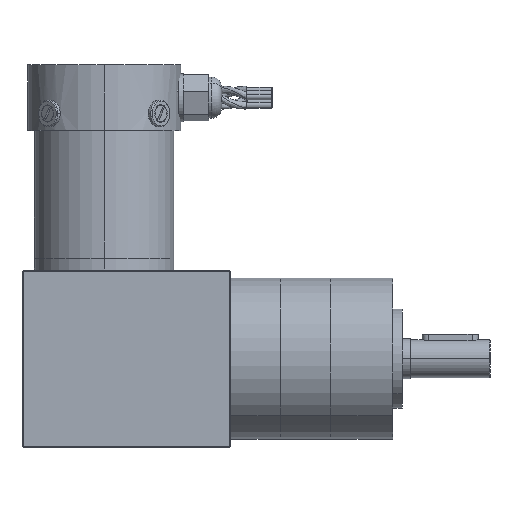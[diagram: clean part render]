
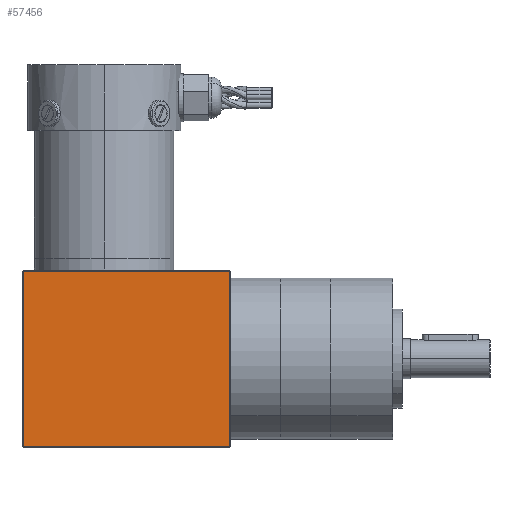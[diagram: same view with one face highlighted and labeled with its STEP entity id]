
A CAD part, top view. The second image highlights one B-rep face of the part: STEP entity #57456.
In plain terms, the highlighted planar face has unit normal (0, 0, 1).
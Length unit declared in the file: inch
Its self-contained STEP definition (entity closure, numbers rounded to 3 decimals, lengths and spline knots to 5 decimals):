
#119 = VERTEX_POINT ( 'NONE', #13893 ) ;
#1781 = DIRECTION ( 'NONE',  ( -1., 0., 0. ) ) ;
#1854 = DIRECTION ( 'NONE',  ( 0., -1., 0. ) ) ;
#2200 = CARTESIAN_POINT ( 'NONE',  ( 7.80937, 3.82216, 4.3302 ) ) ;
#2747 = LINE ( 'NONE', #42813, #17435 ) ;
#4191 = FACE_OUTER_BOUND ( 'NONE', #41843, .T. ) ;
#6505 = EDGE_CURVE ( 'NONE', #24505, #119, #17594, .T. ) ;
#7947 = LINE ( 'NONE', #24683, #36506 ) ;
#8881 = DIRECTION ( 'NONE',  ( 1., 0., 0. ) ) ;
#9141 = LINE ( 'NONE', #44336, #16803 ) ;
#12779 = VERTEX_POINT ( 'NONE', #21487 ) ;
#12817 = DIRECTION ( 'NONE',  ( 0., 1., 0. ) ) ;
#13058 = ORIENTED_EDGE ( 'NONE', *, *, #19682, .T. ) ;
#13893 = CARTESIAN_POINT ( 'NONE',  ( 3.72437, 3.82216, 4.3302 ) ) ;
#16235 = DIRECTION ( 'NONE',  ( 1., 0., 0. ) ) ;
#16803 = VECTOR ( 'NONE', #12817, 39.37008 ) ;
#17435 = VECTOR ( 'NONE', #16235, 39.37008 ) ;
#17594 = LINE ( 'NONE', #50462, #31501 ) ;
#19682 = EDGE_CURVE ( 'NONE', #51938, #24505, #9141, .T. ) ;
#21487 = CARTESIAN_POINT ( 'NONE',  ( 3.72437, 0.36216, 4.3302 ) ) ;
#22414 = PLANE ( 'NONE',  #42021 ) ;
#22924 = ORIENTED_EDGE ( 'NONE', *, *, #27671, .T. ) ;
#24505 = VERTEX_POINT ( 'NONE', #2200 ) ;
#24683 = CARTESIAN_POINT ( 'NONE',  ( 3.72437, 0.34216, 4.3302 ) ) ;
#27671 = EDGE_CURVE ( 'NONE', #119, #12779, #7947, .T. ) ;
#31501 = VECTOR ( 'NONE', #1781, 39.37008 ) ;
#34365 = ORIENTED_EDGE ( 'NONE', *, *, #52496, .T. ) ;
#35531 = CARTESIAN_POINT ( 'NONE',  ( 5.76687, 2.09216, 4.3302 ) ) ;
#36506 = VECTOR ( 'NONE', #1854, 39.37008 ) ;
#41843 = EDGE_LOOP ( 'NONE', ( #34365, #13058, #47551, #22924 ) ) ;
#42021 = AXIS2_PLACEMENT_3D ( 'NONE', #35531, #57363, #8881 ) ;
#42813 = CARTESIAN_POINT ( 'NONE',  ( 7.82937, 0.36216, 4.3302 ) ) ;
#44336 = CARTESIAN_POINT ( 'NONE',  ( 7.80937, 3.84216, 4.3302 ) ) ;
#47551 = ORIENTED_EDGE ( 'NONE', *, *, #6505, .T. ) ;
#50462 = CARTESIAN_POINT ( 'NONE',  ( 3.70437, 3.82216, 4.3302 ) ) ;
#51938 = VERTEX_POINT ( 'NONE', #56579 ) ;
#52496 = EDGE_CURVE ( 'NONE', #12779, #51938, #2747, .T. ) ;
#56579 = CARTESIAN_POINT ( 'NONE',  ( 7.80937, 0.36216, 4.3302 ) ) ;
#57363 = DIRECTION ( 'NONE',  ( 0., 0., 1. ) ) ;
#57456 = ADVANCED_FACE ( 'NONE', ( #4191 ), #22414, .T. ) ;
